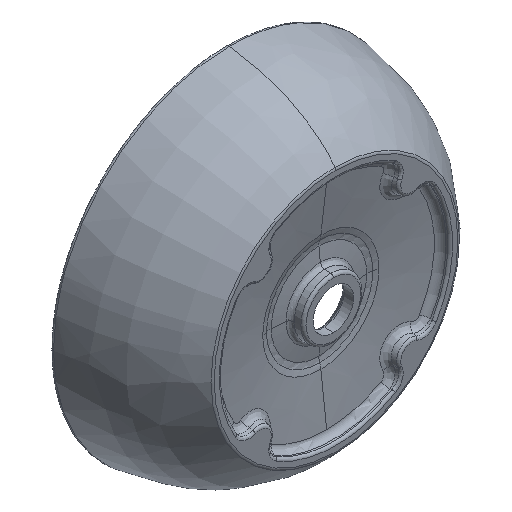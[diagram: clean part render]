
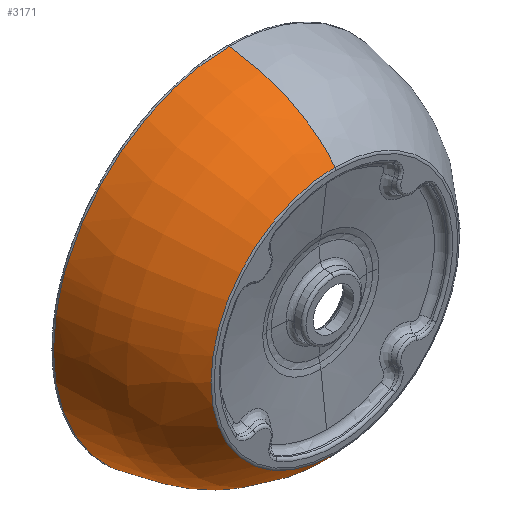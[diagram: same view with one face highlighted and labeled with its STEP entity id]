
A CAD part, isometric view. The second image highlights one B-rep face of the part: STEP entity #3171.
In plain terms, the highlighted face is a revolution surface.
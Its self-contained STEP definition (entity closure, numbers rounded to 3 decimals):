
#144=CARTESIAN_POINT('',(0.,-3.47,
-354.763));
#177=CARTESIAN_POINT('',(0.,-3.47,
44.763));
#379=CARTESIAN_POINT('',(0.,-3.47,
44.763));
#380=CARTESIAN_POINT('',(-8.352,-3.47,44.763));
#381=CARTESIAN_POINT('',(-25.253,-3.476,43.725));
#382=CARTESIAN_POINT('',(-51.09,-3.491,38.715));
#383=CARTESIAN_POINT('',(-75.958,-3.514,30.373));
#384=CARTESIAN_POINT('',(-99.656,-3.537,18.792));
#385=CARTESIAN_POINT('',(-121.624,-3.551,4.185));
#386=CARTESIAN_POINT('',(-141.533,-3.555,
-13.194));
#387=CARTESIAN_POINT('',(-158.946,-3.551,
-33.138));
#388=CARTESIAN_POINT('',(-173.511,-3.538,
-54.597));
#389=CARTESIAN_POINT('',(-185.562,-3.513,
-80.226));
#390=CARTESIAN_POINT('',(-192.39,-3.497,
-97.849));
#391=CARTESIAN_POINT('',(-199.763,-3.47,
-133.514));
#392=CARTESIAN_POINT('',(-199.763,-3.47,
-155.));
#394=CARTESIAN_POINT('',(0.,-3.47,
44.763));
#395=CARTESIAN_POINT('',(0.,-10.564,
44.048));
#396=CARTESIAN_POINT('',(0.,-33.669,
40.742));
#397=CARTESIAN_POINT('',(0.,-70.039,
29.571));
#398=CARTESIAN_POINT('',(0.,-102.251,
9.075));
#399=CARTESIAN_POINT('',(0.,-118.968,
-7.841));
#400=CARTESIAN_POINT('',(0.,-124.041,
-13.778));
#402=CARTESIAN_POINT('',(0.,-124.041,-155.));
#403=DIRECTION('',(0.,1.,0.));
#404=DIRECTION('',(0.,0.,-1.));
#405=AXIS2_PLACEMENT_3D('',#402,#403,#404);
#407=CARTESIAN_POINT('',(0.,-3.47,
-354.763));
#408=CARTESIAN_POINT('',(0.,-10.564,
-354.048));
#409=CARTESIAN_POINT('',(0.,-33.669,
-350.742));
#410=CARTESIAN_POINT('',(0.,-70.039,
-339.571));
#411=CARTESIAN_POINT('',(0.,-102.251,
-319.075));
#412=CARTESIAN_POINT('',(0.,-118.968,
-302.159));
#413=CARTESIAN_POINT('',(0.,-124.041,
-296.222));
#415=CARTESIAN_POINT('',(-199.763,-3.47,
-155.));
#416=CARTESIAN_POINT('',(-199.763,-3.47,
-163.347));
#417=CARTESIAN_POINT('',(-198.731,-3.476,
-180.273));
#418=CARTESIAN_POINT('',(-193.648,-3.492,
-206.382));
#419=CARTESIAN_POINT('',(-185.219,-3.515,
-231.334));
#420=CARTESIAN_POINT('',(-173.599,-3.537,
-254.996));
#421=CARTESIAN_POINT('',(-158.908,-3.551,
-276.982));
#422=CARTESIAN_POINT('',(-141.564,-3.555,
-296.775));
#423=CARTESIAN_POINT('',(-121.502,-3.551,
-314.223));
#424=CARTESIAN_POINT('',(-100.07,-3.537,
-328.701));
#425=CARTESIAN_POINT('',(-74.395,-3.513,
-340.714));
#426=CARTESIAN_POINT('',(-56.893,-3.496,
-347.455));
#427=CARTESIAN_POINT('',(-21.384,-3.47,
-354.763));
#428=CARTESIAN_POINT('',(0.,-3.47,
-354.763));
#1695=CARTESIAN_POINT('',(0.,-124.041,
-13.778));
#1696=CARTESIAN_POINT('',(0.,-124.041,
-296.222));
#1697=VERTEX_POINT('',#1695);
#1698=VERTEX_POINT('',#1696);
#1713=VERTEX_POINT('',#144);
#1716=VERTEX_POINT('',#177);
#1718=VERTEX_POINT('',#392);
#3151=CARTESIAN_POINT('',(140.175,-124.928,-155.));
#3152=CARTESIAN_POINT('',(146.525,-119.593,-155.));
#3153=CARTESIAN_POINT('',(163.847,-102.61,-155.));
#3154=CARTESIAN_POINT('',(184.571,-70.039,-155.));
#3155=CARTESIAN_POINT('',(195.869,-33.256,-155.));
#3156=CARTESIAN_POINT('',(199.174,-9.672,-155.));
#3157=CARTESIAN_POINT('',(199.897,-2.104,-155.));
#3159=CARTESIAN_POINT('',(0.,6.25,-155.));
#3160=DIRECTION('',(0.,-1.,0.));
#3161=AXIS1_PLACEMENT('',#3159,#3160);
#3162=SURFACE_OF_REVOLUTION('',#3158,#3161);
#3163=ORIENTED_EDGE('',*,*,#2634,.F.);
#3164=ORIENTED_EDGE('',*,*,#1866,.T.);
#3166=ORIENTED_EDGE('',*,*,#3165,.F.);
#3167=ORIENTED_EDGE('',*,*,#1863,.F.);
#3168=ORIENTED_EDGE('',*,*,#3145,.F.);
#3169=EDGE_LOOP('',(#3163,#3164,#3166,#3167,#3168));
#3170=FACE_OUTER_BOUND('',#3169,.F.);
#3171=ADVANCED_FACE('',(#3170),#3162,.F.);
#393=B_SPLINE_CURVE_WITH_KNOTS('',3,(#379,#380,#381,#382,#383,#384,#385,#386,
#387,#388,#389,#390,#391,#392),.UNSPECIFIED.,.F.,.F.,(4,1,1,1,1,1,1,1,1,1,1,4),(
0.,0.091,0.182,0.273,0.364,
0.455,0.545,0.636,0.727,
0.818,0.909,1.),.UNSPECIFIED.);
#401=B_SPLINE_CURVE_WITH_KNOTS('',3,(#394,#395,#396,#397,#398,#399,#400),
.UNSPECIFIED.,.F.,.F.,(4,1,1,1,4),(0.,0.148,0.493,
0.838,1.),.UNSPECIFIED.);
#406=CIRCLE('',#405,141.222);
#414=B_SPLINE_CURVE_WITH_KNOTS('',3,(#407,#408,#409,#410,#411,#412,#413),
.UNSPECIFIED.,.F.,.F.,(4,1,1,1,4),(0.,0.148,0.493,
0.838,1.),.UNSPECIFIED.);
#429=B_SPLINE_CURVE_WITH_KNOTS('',3,(#415,#416,#417,#418,#419,#420,#421,#422,
#423,#424,#425,#426,#427,#428),.UNSPECIFIED.,.F.,.F.,(4,1,1,1,1,1,1,1,1,1,1,4),(
0.,0.091,0.182,0.273,0.364,
0.455,0.545,0.636,0.727,
0.818,0.909,1.),.UNSPECIFIED.);
#1863=EDGE_CURVE('',#1713,#1698,#414,.T.);
#1866=EDGE_CURVE('',#1716,#1697,#401,.T.);
#2634=EDGE_CURVE('',#1716,#1718,#393,.T.);
#3145=EDGE_CURVE('',#1718,#1713,#429,.T.);
#3158=B_SPLINE_CURVE_WITH_KNOTS('',3,(#3151,#3152,#3153,#3154,#3155,#3156,
#3157),.UNSPECIFIED.,.F.,.F.,(4,1,1,1,4),(0.,0.168,
0.507,0.845,1.),.UNSPECIFIED.);
#3165=EDGE_CURVE('',#1698,#1697,#406,.T.);
